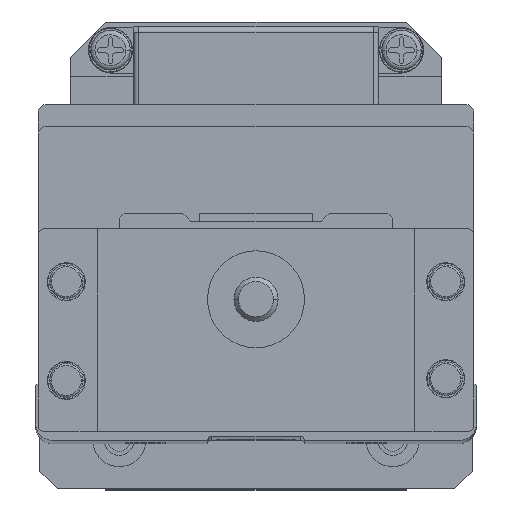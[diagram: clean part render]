
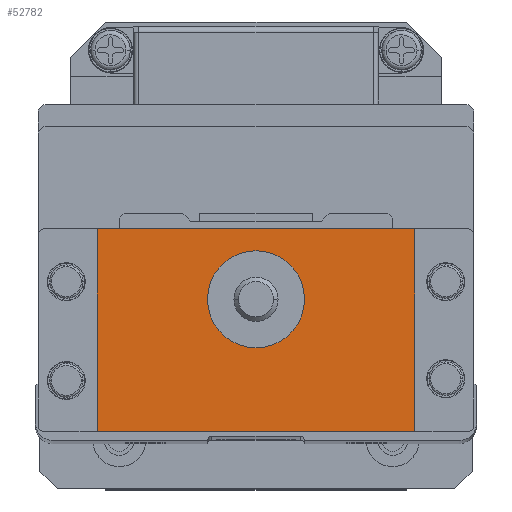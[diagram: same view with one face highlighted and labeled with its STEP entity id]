
A CAD part, top view. The second image highlights one B-rep face of the part: STEP entity #52782.
In plain terms, the highlighted planar face has unit normal (0, 0, 1) as drawn and (1, 0, 0) by its records, which use the part's own axes.
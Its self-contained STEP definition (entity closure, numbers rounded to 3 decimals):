
#775 = CARTESIAN_POINT ( 'NONE',  ( 210., 0., 5.5 ) ) ;
#4927 = CARTESIAN_POINT ( 'NONE',  ( 210., -15., 23.95 ) ) ;
#6442 = CIRCLE ( 'NONE', #34653, 5.5 ) ;
#8505 = CARTESIAN_POINT ( 'NONE',  ( 210., 8., -23.95 ) ) ;
#8704 = DIRECTION ( 'NONE',  ( 0., -1., 0. ) ) ;
#9356 = VECTOR ( 'NONE', #26425, 1000. ) ;
#11002 = LINE ( 'NONE', #4927, #9356 ) ;
#11485 = DIRECTION ( 'NONE',  ( 1., 0., 0. ) ) ;
#12554 = CARTESIAN_POINT ( 'NONE',  ( 210., 0., 0. ) ) ;
#12915 = VERTEX_POINT ( 'NONE', #16152 ) ;
#14982 = EDGE_CURVE ( 'NONE', #32587, #12915, #11002, .T. ) ;
#15228 = DIRECTION ( 'NONE',  ( 0., 1., 0. ) ) ;
#16152 = CARTESIAN_POINT ( 'NONE',  ( 210., -15., -18. ) ) ;
#16214 = VERTEX_POINT ( 'NONE', #35374 ) ;
#17999 = DIRECTION ( 'NONE',  ( 0., 0., 1. ) ) ;
#18409 = CIRCLE ( 'NONE', #29990, 5.5 ) ;
#18992 = CARTESIAN_POINT ( 'NONE',  ( 210., 8., -18. ) ) ;
#21849 = LINE ( 'NONE', #8505, #48993 ) ;
#22510 = VECTOR ( 'NONE', #8704, 1000. ) ;
#23206 = CARTESIAN_POINT ( 'NONE',  ( 210., 0., 0. ) ) ;
#23502 = ORIENTED_EDGE ( 'NONE', *, *, #31670, .T. ) ;
#23800 = AXIS2_PLACEMENT_3D ( 'NONE', #43995, #11485, #49423 ) ;
#25372 = ORIENTED_EDGE ( 'NONE', *, *, #32393, .T. ) ;
#25438 = EDGE_CURVE ( 'NONE', #16214, #50243, #6442, .T. ) ;
#26425 = DIRECTION ( 'NONE',  ( 0., 0., -1. ) ) ;
#27114 = FACE_OUTER_BOUND ( 'NONE', #41797, .T. ) ;
#28657 = DIRECTION ( 'NONE',  ( 0., 0., 1. ) ) ;
#29990 = AXIS2_PLACEMENT_3D ( 'NONE', #23206, #61043, #28657 ) ;
#30690 = EDGE_LOOP ( 'NONE', ( #33799, #34298 ) ) ;
#31670 = EDGE_CURVE ( 'NONE', #63506, #59996, #21849, .T. ) ;
#32393 = EDGE_CURVE ( 'NONE', #12915, #63506, #63135, .T. ) ;
#32587 = VERTEX_POINT ( 'NONE', #60127 ) ;
#33511 = LINE ( 'NONE', #57142, #22510 ) ;
#33799 = ORIENTED_EDGE ( 'NONE', *, *, #61933, .T. ) ;
#34298 = ORIENTED_EDGE ( 'NONE', *, *, #25438, .T. ) ;
#34653 = AXIS2_PLACEMENT_3D ( 'NONE', #12554, #50489, #17999 ) ;
#35141 = ORIENTED_EDGE ( 'NONE', *, *, #40924, .T. ) ;
#35374 = CARTESIAN_POINT ( 'NONE',  ( 210., 0., -5.5 ) ) ;
#36777 = CARTESIAN_POINT ( 'NONE',  ( 210., 7.25, -18. ) ) ;
#40924 = EDGE_CURVE ( 'NONE', #59996, #32587, #33511, .T. ) ;
#41797 = EDGE_LOOP ( 'NONE', ( #62160, #25372, #23502, #35141 ) ) ;
#43995 = CARTESIAN_POINT ( 'NONE',  ( 210., 7.25, 23.95 ) ) ;
#46596 = DIRECTION ( 'NONE',  ( 0., 0., 1. ) ) ;
#48791 = VECTOR ( 'NONE', #15228, 1000. ) ;
#48993 = VECTOR ( 'NONE', #46596, 1000. ) ;
#49423 = DIRECTION ( 'NONE',  ( 0., 0., -1. ) ) ;
#50243 = VERTEX_POINT ( 'NONE', #775 ) ;
#50489 = DIRECTION ( 'NONE',  ( -1., 0., 0. ) ) ;
#52782 = ADVANCED_FACE ( 'NONE', ( #27114, #68610 ), #54571, .T. ) ;
#54571 = PLANE ( 'NONE',  #23800 ) ;
#57142 = CARTESIAN_POINT ( 'NONE',  ( 210., 7.25, 18. ) ) ;
#59996 = VERTEX_POINT ( 'NONE', #64444 ) ;
#60127 = CARTESIAN_POINT ( 'NONE',  ( 210., -15., 18. ) ) ;
#61043 = DIRECTION ( 'NONE',  ( -1., 0., 0. ) ) ;
#61933 = EDGE_CURVE ( 'NONE', #50243, #16214, #18409, .T. ) ;
#62160 = ORIENTED_EDGE ( 'NONE', *, *, #14982, .T. ) ;
#63135 = LINE ( 'NONE', #36777, #48791 ) ;
#63506 = VERTEX_POINT ( 'NONE', #18992 ) ;
#64444 = CARTESIAN_POINT ( 'NONE',  ( 210., 8., 18. ) ) ;
#68610 = FACE_BOUND ( 'NONE', #30690, .T. ) ;
